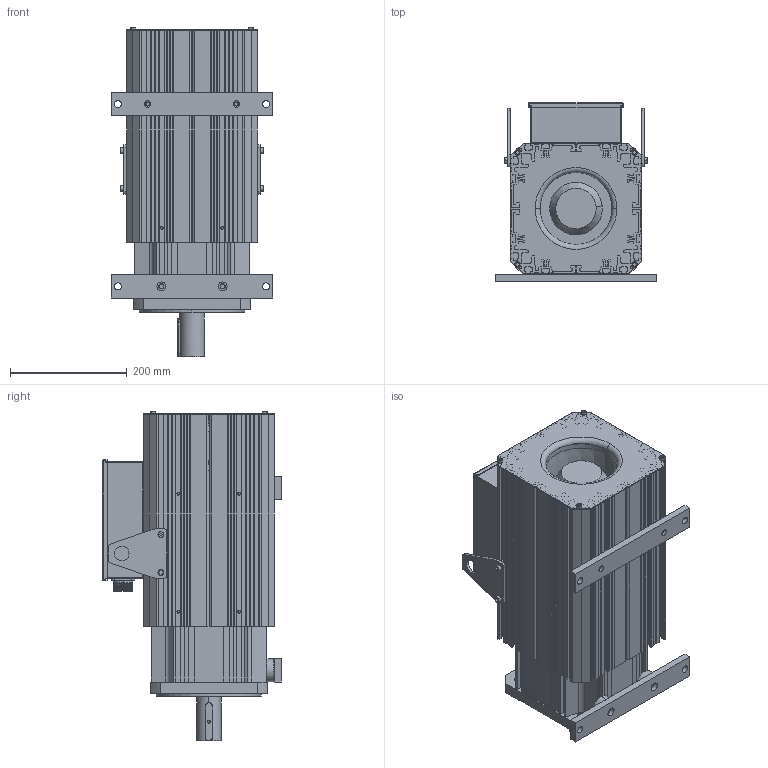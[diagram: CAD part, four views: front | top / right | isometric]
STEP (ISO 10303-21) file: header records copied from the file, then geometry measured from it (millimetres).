
FILE_DESCRIPTION (( 'STEP AP203' ), '1' );
FILE_NAME ('ZE1806.STEP', '2024-10-22T02:43:44', ( 'MicroSoft' ), ( 'MicroSoft' ), 'SwSTEP 2.0', 'SolidWorks 2020', '' );
FILE_SCHEMA (( 'CONFIG_CONTROL_DESIGN' ));
Length unit declared in the file: millimetre
Products named in the file (32): GB／T276-94深沟球轴承6309-2Z; 25______ (1).STEP; Z18-01-19(絳瑞啣D)_1806; Z18袪粣圉羲溫瑩羞_1806; 内六角圆柱头螺钉[GB／T70.1-2008][M5×35]_M5×10; 25______ __.STEP; Z18-01-01(18儂褲)_1806; GB╱T 276-2013[深沟球轴承[60000]6306]; Z18-01-14(萇儂菁褐盓殤-1); Z18-01-18(絳瑞啣C)_1806; 内六角圆柱头螺钉[GB／T70.1-2008][M6×16]_M6×16; M6 T倰蹟譫; 裂嫉; 25__________2024.8.7.STEP; ZE1806; Z18-01-02(18前法兰); Z18-01-16(絳瑞啣A)_1806; Z18-01-21(18綴結啣); Z18-01-22(18瑞圮假蚾啣); Z18-01-17(絳瑞啣B)_1806; 内六角圆柱头螺钉[GB／T70.1-2008][M8×30]_M8×30; Z18-01-15(萇儂菁褐盓殤-2); Z航插15芯（公头电机端）28; Z18-01-03(18极胜后法兰)_常规款; Z18-01-09(粣創嶺裔)_都寞; ZE18 66す瑩; Z18-01-20(18盓殤菜輸); Z18-01-23(18唅曹裔啣); 18萇儂霧齪; 内六角圆柱头螺钉[GB／T70.1-2008][M5×10]_M5×10; 18风扇-175FLW-3 380V（3080103010006）; 200諉盄碟2024.8.7.STEP
Assembly tree (57 placements, depth 3):
  ZE1806
    Z18-01-01(18儂褲)_1806
    Z18-01-02(18前法兰)
    Z18-01-03(18极胜后法兰)_常规款
    Z18袪粣圉羲溫瑩羞_1806
    Z18-01-09(粣創嶺裔)_都寞
    Z18-01-14(萇儂菁褐盓殤-1)
    Z18-01-15(萇儂菁褐盓殤-2)
    Z18-01-20(18盓殤菜輸)  x2
    Z18-01-21(18綴結啣)
    Z18-01-22(18瑞圮假蚾啣)
    GB／T276-94深沟球轴承6309-2Z
    GB╱T 276-2013[深沟球轴承[60000]6306]
    ZE18 66す瑩
    18风扇-175FLW-3 380V（3080103010006）
    18萇儂霧齪
    Z18-01-23(18唅曹裔啣)
    Z18-01-16(絳瑞啣A)_1806
    Z18-01-17(絳瑞啣B)_1806
    Z18-01-18(絳瑞啣C)_1806  x3
    Z18-01-19(絳瑞啣D)_1806  x3
    内六角圆柱头螺钉[GB／T70.1-2008][M8×30]_M8×30  x8
    内六角圆柱头螺钉[GB／T70.1-2008][M5×35]_M5×10  x5
    裂嫉  x2
    内六角圆柱头螺钉[GB／T70.1-2008][M6×16]_M6×16  x4
    M6 T倰蹟譫  x4
    Z航插15芯（公头电机端）28
    内六角圆柱头螺钉[GB／T70.1-2008][M5×10]_M5×10  x4
    200諉盄碟2024.8.7.STEP
      25______ (1).STEP
      25__________2024.8.7.STEP
      25______ __.STEP
Bounding box: 277 x 305.5 x 565 mm (x, y, z)
Volume: 8735387.3 mm3; surface area: 2867669.2 mm2
Topology: 69 solids, 69 shells, 3815 faces, 10276 edges, 6580 vertices
Faces by surface type: plane 1561, cylinder 1500, cone 283, sphere 173, torus 172, bspline 126
Entity records: 105505 total; most frequent: CARTESIAN_POINT 32421, ORIENTED_EDGE 14612, DIRECTION 14382, EDGE_CURVE 7306, AXIS2_PLACEMENT_3D 5396, VERTEX_POINT 4728, LINE 3590, VECTOR 3590
